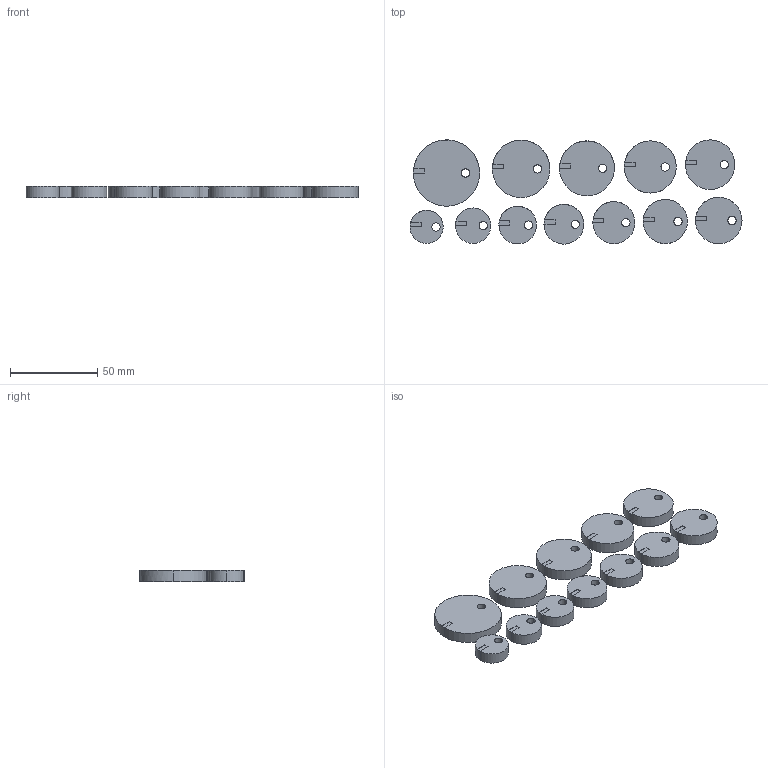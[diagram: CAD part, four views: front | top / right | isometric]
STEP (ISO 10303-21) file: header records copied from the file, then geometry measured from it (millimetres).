
FILE_DESCRIPTION (( 'STEP AP214' ), '1' );
FILE_NAME ('Cams.STEP', '2017-08-24T17:19:20', ( 'John' ), ( 'None' ), 'SwSTEP 2.0', 'SolidWorks 2007', '' );
FILE_SCHEMA (( 'AUTOMOTIVE_DESIGN' ));
Length unit declared in the file: millimetre
Products named in the file (13): cam; cam_3; cam_2; cam_5; cam_4; cam_6; cam_9; cam_10; cam_7; cam_8; cam_11; Cams; cam_12
Assembly tree (12 placements, depth 2):
  Cams
    cam_4
    cam_10
    cam_9
    cam_7
    cam_8
    cam
    cam_12
    cam_11
    cam_6
    cam_5
    cam_3
    cam_2
Bounding box: 190.73 x 59.89 x 6.35 mm (x, y, z)
Volume: 43204.1 mm3; surface area: 21205.6 mm2
Topology: 12 solids, 12 shells, 120 faces, 276 edges, 180 vertices
Faces by surface type: plane 72, cylinder 48
Entity records: 4406 total; most frequent: DIRECTION 654, CARTESIAN_POINT 591, ORIENTED_EDGE 552, EDGE_CURVE 276, AXIS2_PLACEMENT_3D 243, VERTEX_POINT 180, LINE 168, VECTOR 168
